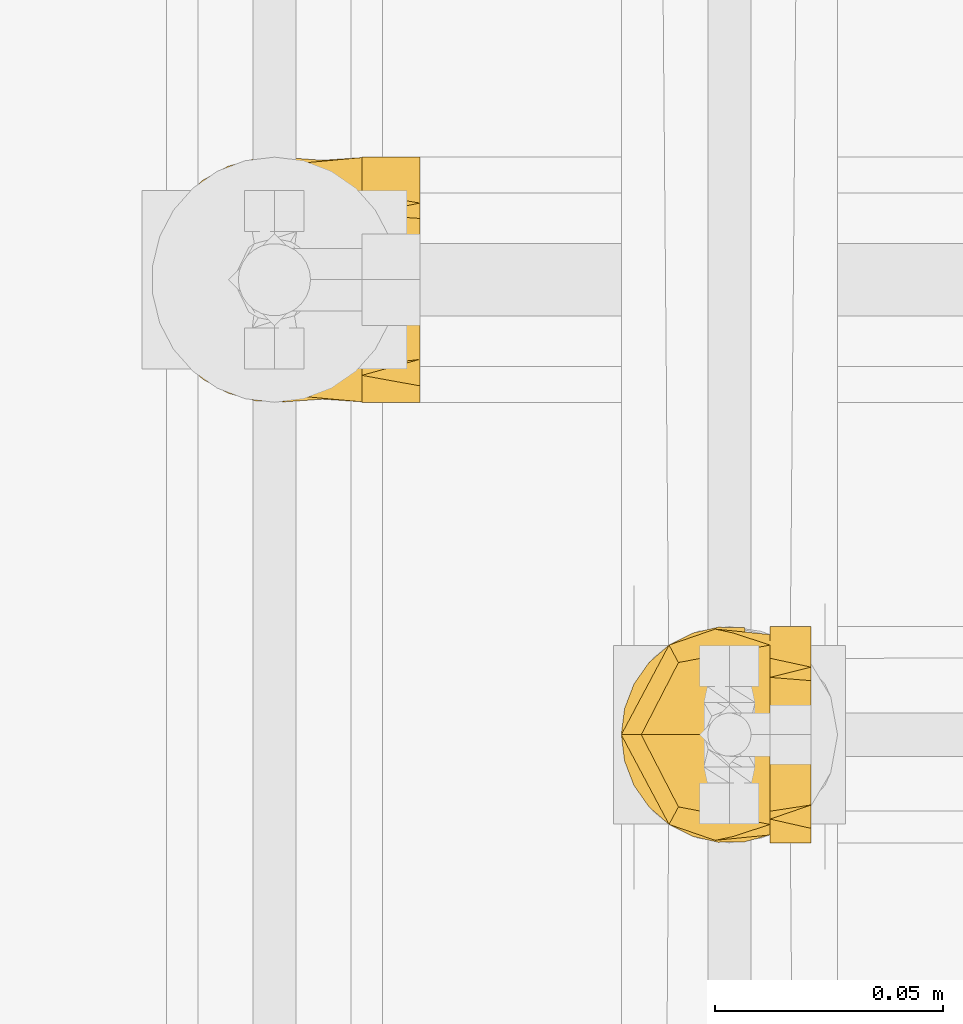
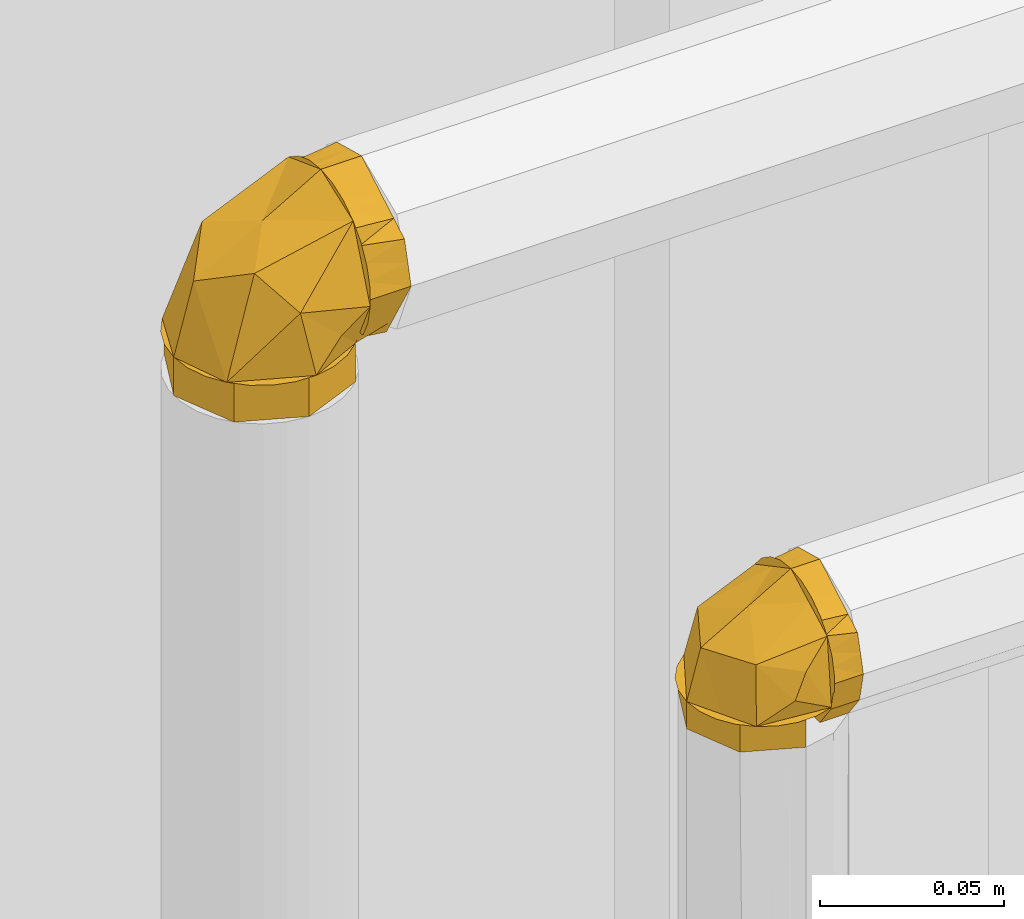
# One storey, part 306 of 652: 2 coverings.
"""IFC2X3 building model written with IfcOpenShell, lengths in millimetres."""

from ifc_helpers import new_model, entity, si_unit, converted_unit, direction, frame, origin, place, context, subcontext, project, spatial, face_set, surface_model, material, type_object, element, save


model = new_model("IFC2X3")

# Units and contexts
model_context = context("Model", 3, precision=0.01, world=frame((0.0, 0.0, 308426.39999999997)), true_north=direction((6.123233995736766e-17, 1.0)))
plan_context = context("Plan", 3, precision=0.01, world=frame((0.0, 0.0, 308426.39999999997)), true_north=direction((6.123233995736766e-17, 1.0)))
body_context = subcontext(model_context, "Body", "Model", "MODEL_VIEW")
ifc_project = project(units=[si_unit("LENGTHUNIT", "METRE", prefix="MILLI"), si_unit("AREAUNIT", "SQUARE_METRE"), si_unit("VOLUMEUNIT", "CUBIC_METRE"), converted_unit("PLANEANGLEUNIT", "DEGREE", entity("IfcPlaneAngleMeasure", 0.017453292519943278), si_unit("PLANEANGLEUNIT", "RADIAN"), dimensions=[0, 0, 0, 0, 0, 0, 0])], contexts=[model_context, plan_context])

# Site, building, storey
site_placement = place(None, origin())
site = spatial("IfcSite", under=ifc_project, at=site_placement, Name="Default", CompositionType="ELEMENT")
building_placement = place(site_placement, origin())
building = spatial("IfcBuilding", under=site, at=building_placement, CompositionType="ELEMENT")
storey_placement = place(building_placement, frame((0.0, 0.0, 1730.6999999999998)))
storey = spatial("IfcBuildingStorey", under=building, at=storey_placement, Name="EG_Produktion_FFB", CompositionType="ELEMENT", Elevation=1730.6999999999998)

# Coverings
ifc_material = material(Name="Dämmung - Armaflex-Schlauch")
covering_type = type_object("IfcCoveringType", Name="Rohrdämmung außen:Armaflex-Schlauch", PredefinedType="INSULATION")
covering_1_placement = place(storey_placement, frame((19434.71816691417, 55699.37306831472, 3368.0162500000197)))
element("IfcCovering", 1, at=covering_1_placement, inside=storey, type_object=covering_type, material=ifc_material, Name="Rohrdämmung außen:Armaflex-Schlauch", ObjectType="Rohrdämmung außen:Armaflex-Schlauch", PredefinedType="INSULATION", context=body_context, shape_type="SurfaceModel", body=[
    surface_model("IfcFaceBasedSurfaceModel", [(47.75027223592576, 9.65642195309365, 12.766250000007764), (42.79223424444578, 5.678961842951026, 12.76625000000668), (37.040242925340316, 2.973980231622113, 12.76625000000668), (30.81456370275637, 1.6920879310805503, 12.766250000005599), (24.46183649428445, 1.904659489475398, 12.766250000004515), (18.33577512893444, 3.599859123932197, 12.766250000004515), (12.777472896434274, 6.683299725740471, 12.766250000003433), (8.096410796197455, 10.983298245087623, 12.766250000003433), (4.553225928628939, 16.26043484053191, 12.76625000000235), (2.3451994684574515, 22.220883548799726, 12.76625000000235), (1.5952722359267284, 28.532772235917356, 12.76625000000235), (2.3451994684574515, 34.844660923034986, 12.76625000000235), (4.553225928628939, 40.8051096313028, 12.76625000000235), (8.096410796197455, 46.08224622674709, 12.766250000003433), (12.777472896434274, 50.38224474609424, 12.766250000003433), (18.33577512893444, 53.465685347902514, 12.766250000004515), (24.46183649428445, 55.16088498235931, 12.766250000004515), (30.81456370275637, 55.37345654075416, 12.766250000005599), (37.040242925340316, 54.0915642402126, 12.76625000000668), (42.79223424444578, 51.38658262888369, 12.76625000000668), (47.75027223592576, 47.409122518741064, 12.766250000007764), (47.75027223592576, 5.678961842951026, 17.72428799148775), (47.750272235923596, 2.973980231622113, 23.4762793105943), (47.750272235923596, 1.6920879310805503, 29.70195853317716), (47.750272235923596, 1.904659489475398, 36.05468574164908), (47.750272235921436, 3.599859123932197, 42.18074710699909), (47.750272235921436, 6.683299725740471, 47.73904933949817), (47.750272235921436, 10.983298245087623, 52.420111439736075), (47.750272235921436, 16.26043484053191, 55.96329630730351), (47.75027223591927, 22.220883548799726, 58.171322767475), (47.75027223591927, 28.532772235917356, 58.92125000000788), (47.75027223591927, 34.844660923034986, 58.171322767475), (47.750272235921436, 40.8051096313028, 55.96329630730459), (47.750272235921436, 46.08224622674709, 52.420111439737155), (47.750272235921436, 50.38224474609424, 47.73904933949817), (47.750272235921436, 53.465685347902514, 42.18074710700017), (47.750272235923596, 55.16088498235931, 36.05468574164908), (47.750272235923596, 55.37345654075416, 29.70195853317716), (47.750272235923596, 54.0915642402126, 23.4762793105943), (47.75027223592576, 51.38658262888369, 17.72428799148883), (39.06991902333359, 2.2781279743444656, 22.708934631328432), (7.778805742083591, 28.532339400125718, 35.84359802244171), (19.45599995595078, 6.3383452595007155, 12.766518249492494), (26.950891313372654, 3.5989775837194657, 33.56524871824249), (18.674652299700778, 14.286697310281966, 43.183847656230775), (29.486783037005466, 28.532339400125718, 48.3765539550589), (47.75078450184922, 6.3383452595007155, 41.06130279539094), (18.674652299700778, 42.77798148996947, 43.183847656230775), (26.950891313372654, 53.46570121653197, 33.56524871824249), (39.06991902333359, 54.79120170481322, 22.708934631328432), (47.75078450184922, 50.726333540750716, 41.06130279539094), (19.45599995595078, 50.726333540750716, 12.766518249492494), (7.512630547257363, 14.247005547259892, 0.0), (5.540177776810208, 19.008927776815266, 0.0), (3.5677250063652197, 23.770850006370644, 0.0), (1.5952722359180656, 28.532772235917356, 0.0), (3.5677250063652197, 33.29469446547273, 0.0), (5.540177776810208, 38.05661669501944, 0.0), (7.512630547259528, 42.81853892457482, 0.0), (9.485083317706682, 47.5804611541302, 0.0), (14.247005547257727, 49.552913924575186, 0.0), (19.008927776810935, 51.525366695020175, 0.0), (23.770850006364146, 53.497819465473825, 0.0), (28.532772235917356, 55.47027223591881, 0.0), (33.29469446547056, 53.49781946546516, 0.0), (38.05661669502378, 51.525366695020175, 0.0), (42.818538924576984, 49.552913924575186, 0.0), (47.5804611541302, 47.5804611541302, 0.0), (49.55291392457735, 42.81853892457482, 0.0), (51.5253666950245, 38.05661669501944, 0.0), (53.49781946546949, 33.29469446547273, 0.0), (55.47027223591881, 28.532772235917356, 0.0), (53.49781946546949, 23.77085000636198, 0.0), (51.5253666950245, 19.008927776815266, 0.0), (49.55291392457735, 14.247005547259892, 0.0), (47.5804611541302, 9.485083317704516, 0.0), (42.818538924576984, 7.512630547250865, 0.0), (38.05661669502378, 5.54017777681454, 0.0), (33.29469446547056, 3.567725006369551, 0.0), (28.532772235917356, 1.5952722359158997, 0.0), (23.770850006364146, 3.567725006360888, 0.0), (19.008927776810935, 5.54017777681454, 0.0), (14.24700554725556, 7.512630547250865, 0.0), (9.485083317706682, 9.485083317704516, 0.0), (1.5952722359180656, 28.532772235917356, 12.76625000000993), (3.5677250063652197, 23.77085000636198, 12.76625000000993), (5.5401777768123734, 19.008927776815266, 12.76625000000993), (7.512630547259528, 14.247005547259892, 12.766250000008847), (9.485083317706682, 9.485083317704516, 12.766250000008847), (15.253472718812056, 7.095738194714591, 12.766250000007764), (21.021862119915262, 4.706393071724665, 12.76625000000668), (28.53277223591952, 1.5952722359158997, 12.766250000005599), (33.29469446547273, 3.567725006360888, 12.766250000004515), (38.05661669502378, 5.54017777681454, 12.766250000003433), (42.818538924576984, 7.512630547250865, 12.76625000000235), (47.5804611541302, 9.485083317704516, 12.76625000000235), (49.96980627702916, 15.253472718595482, 12.76625000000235), (52.359151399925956, 21.021862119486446, 12.766250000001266), (55.47027223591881, 28.532772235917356, 12.766250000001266), (53.49781946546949, 33.29469446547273, 12.766250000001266), (51.5253666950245, 38.05661669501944, 12.766250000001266), (49.55291392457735, 42.81853892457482, 12.766250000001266), (47.5804611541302, 47.5804611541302, 12.76625000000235), (41.8120717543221, 49.96980627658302, 12.766250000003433), (36.043682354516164, 52.359151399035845, 12.766250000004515), (28.532772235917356, 55.47027223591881, 12.766250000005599), (23.770850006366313, 53.497819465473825, 12.76625000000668), (19.008927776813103, 51.525366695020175, 12.766250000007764), (14.247005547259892, 49.552913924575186, 12.766250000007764), (9.485083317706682, 47.5804611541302, 12.766250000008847), (7.095738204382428, 41.81207177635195, 12.76625000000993), (4.706393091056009, 36.0436823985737, 12.76625000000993), (60.516522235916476, 28.532772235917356, 58.92125000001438), (60.51652223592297, 22.700632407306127, 55.5540625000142), (60.5165222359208, 16.868492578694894, 52.1868750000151), (60.51652223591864, 11.036352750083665, 48.819687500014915), (60.516522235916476, 5.204212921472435, 45.45250000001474), (60.516522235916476, 3.3997425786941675, 38.718125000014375), (60.516522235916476, 1.5952722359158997, 31.98375000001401), (60.51652223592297, 4.962459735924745, 26.151610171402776), (60.5165222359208, 8.329647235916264, 20.31947034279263), (60.51652223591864, 11.696834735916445, 14.487330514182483), (60.516522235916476, 15.064022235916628, 8.655190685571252), (60.516522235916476, 21.79839723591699, 6.850720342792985), (60.516522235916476, 28.532772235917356, 5.046250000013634), (60.51652223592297, 34.36491206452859, 8.413437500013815), (60.5165222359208, 40.197051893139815, 11.780625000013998), (60.51652223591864, 46.02919172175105, 15.147812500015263), (60.516522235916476, 51.86133155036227, 18.51500000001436), (60.516522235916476, 53.66580189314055, 25.249375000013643), (60.516522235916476, 55.47027223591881, 31.98375000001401), (60.51652223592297, 52.10308473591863, 37.81588982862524), (60.5165222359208, 48.73589723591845, 43.648029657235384), (60.51652223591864, 45.36870973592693, 49.480169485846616), (60.516522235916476, 42.00152223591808, 55.31230931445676), (60.516522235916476, 35.26714723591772, 57.11677965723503), (47.750272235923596, 28.532772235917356, 58.92125000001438), (47.750272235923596, 33.29469446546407, 56.94879722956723), (47.750272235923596, 38.05661669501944, 54.97634445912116), (47.750272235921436, 42.81853892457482, 53.003891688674), (47.750272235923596, 47.5804611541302, 51.03143891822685), (47.750272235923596, 49.552913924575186, 46.26951668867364), (47.750272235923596, 51.525366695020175, 41.507594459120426), (47.750272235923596, 53.497819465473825, 36.74567222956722), (47.750272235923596, 55.47027223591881, 31.98375000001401), (47.750272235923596, 53.49781946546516, 27.2218277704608), (47.750272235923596, 51.525366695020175, 22.459905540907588), (47.750272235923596, 49.55291392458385, 17.697983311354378), (47.750272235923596, 47.5804611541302, 12.936061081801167), (47.750272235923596, 42.81853892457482, 10.963608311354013), (47.750272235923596, 38.05661669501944, 8.99115554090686), (47.750272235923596, 33.29469446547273, 7.018702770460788), (47.750272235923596, 28.532772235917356, 5.046250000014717), (47.750272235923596, 23.77085000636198, 7.018702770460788), (47.750272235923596, 19.008927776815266, 8.99115554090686), (47.750272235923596, 14.247005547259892, 10.963608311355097), (47.750272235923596, 9.485083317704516, 12.936061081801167), (47.750272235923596, 7.512630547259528, 17.697983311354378), (47.750272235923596, 5.54017777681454, 22.459905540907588), (47.750272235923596, 3.567725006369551, 27.2218277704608), (47.750272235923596, 1.5952722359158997, 31.98375000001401), (47.750272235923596, 3.567725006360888, 36.74567222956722), (47.750272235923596, 5.54017777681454, 41.507594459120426), (47.750272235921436, 7.512630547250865, 46.26951668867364), (47.750272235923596, 9.485083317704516, 51.03143891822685), (47.750272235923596, 14.247005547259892, 53.003891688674), (47.750272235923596, 19.008927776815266, 54.97634445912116), (47.750272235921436, 23.770850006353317, 56.94879722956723)], [face_set([[[0, 1, 2, 3, 4, 5, 6, 7, 8, 9, 10, 11, 12, 13, 14, 15, 16, 17, 18, 19]], [[20, 21, 22, 23, 24, 25, 26, 27, 28, 29, 30, 31, 32, 33, 34, 35, 36, 37, 38, 39]], [[0, 40, 3]], [[10, 7, 41]], [[42, 3, 43]], [[40, 43, 3]], [[23, 40, 0]], [[7, 43, 44]], [[45, 41, 44]], [[7, 44, 41]], [[27, 30, 45]], [[45, 44, 27]], [[43, 27, 44]], [[43, 23, 46]], [[43, 7, 42]], [[23, 43, 40]], [[46, 27, 43]], [[13, 10, 41]], [[33, 47, 45]], [[45, 30, 33]], [[48, 47, 33]], [[49, 48, 37]], [[48, 50, 37]], [[45, 47, 41]], [[20, 49, 37]], [[47, 48, 13]], [[17, 49, 20]], [[41, 47, 13]], [[48, 17, 51]], [[48, 33, 50]], [[17, 48, 49]], [[51, 13, 48]]]), face_set([[[52, 53, 54, 55, 56, 57, 58, 59, 60, 61, 62, 63, 64, 65, 66, 67, 68, 69, 70, 71, 72, 73, 74, 75, 76, 77, 78, 79, 80, 81, 82, 83]], [[84, 85, 86, 87, 88, 89, 90, 91, 92, 93, 94, 95, 96, 97, 98, 99, 100, 101, 102, 103, 104, 105, 106, 107, 108, 109, 110, 111]], [[111, 110, 109, 59, 58, 57, 56, 55, 84]], [[59, 109, 108, 107, 106, 105, 63, 62, 61, 60]], [[104, 103, 102, 67, 66, 65, 64, 63, 105]], [[67, 102, 101, 100, 99, 98, 71, 70, 69, 68]], [[97, 96, 95, 75, 74, 73, 72, 71, 98]], [[75, 95, 94, 93, 92, 91, 79, 78, 77, 76]], [[90, 89, 88, 83, 82, 81, 80, 79, 91]], [[83, 88, 87, 86, 85, 84, 55, 54, 53, 52]]]), face_set([[[112, 113, 114, 115, 116, 117, 118, 119, 120, 121, 122, 123, 124, 125, 126, 127, 128, 129, 130, 131, 132, 133, 134, 135]], [[136, 137, 138, 139, 140, 141, 142, 143, 144, 145, 146, 147, 148, 149, 150, 151, 152, 153, 154, 155, 156, 157, 158, 159, 160, 161, 162, 163, 164, 165, 166, 167]], [[155, 121, 156]], [[118, 159, 119]], [[159, 158, 119]], [[123, 154, 153]], [[153, 152, 124]], [[121, 155, 122]], [[120, 158, 157]], [[118, 160, 159]], [[158, 120, 119]], [[124, 123, 153]], [[157, 156, 121]], [[155, 154, 122]], [[123, 122, 154]], [[120, 157, 121]], [[163, 115, 164]], [[112, 167, 113]], [[167, 166, 113]], [[117, 162, 161]], [[161, 160, 118]], [[115, 163, 116]], [[114, 166, 165]], [[112, 136, 167]], [[166, 114, 113]], [[118, 117, 161]], [[165, 164, 115]], [[163, 162, 116]], [[117, 116, 162]], [[114, 165, 115]], [[139, 133, 140]], [[130, 143, 131]], [[143, 142, 131]], [[135, 138, 137]], [[137, 136, 112]], [[133, 139, 134]], [[132, 142, 141]], [[130, 144, 143]], [[142, 132, 131]], [[112, 135, 137]], [[141, 140, 133]], [[139, 138, 134]], [[135, 134, 138]], [[132, 141, 133]], [[147, 127, 148]], [[124, 151, 125]], [[151, 150, 125]], [[129, 146, 145]], [[145, 144, 130]], [[127, 147, 128]], [[126, 150, 149]], [[124, 152, 151]], [[150, 126, 125]], [[130, 129, 145]], [[149, 148, 127]], [[147, 146, 128]], [[129, 128, 146]], [[126, 149, 127]]])]),
])
covering_2_placement = place(storey_placement, frame((19537.89316691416, 55602.548068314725, 3280.6110791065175)))
element("IfcCovering", 2, at=covering_2_placement, inside=storey, type_object=covering_type, material=ifc_material, Name="Rohrdämmung außen:Armaflex-Schlauch", ObjectType="Rohrdämmung außen:Armaflex-Schlauch", PredefinedType="INSULATION", context=body_context, shape_type="SurfaceModel", body=[
    surface_model("IfcFaceBasedSurfaceModel", [(34.288272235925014, 3.3372686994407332, 10.458420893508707), (28.691896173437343, 1.8303409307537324, 10.458420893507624), (22.897179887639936, 1.7230119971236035, 10.458420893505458), (17.24883921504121, 3.0216666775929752, 10.458420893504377), (12.082882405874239, 5.649050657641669, 10.458420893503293), (7.706621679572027, 9.44886623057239, 10.45842089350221), (4.380391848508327, 14.195070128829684, 10.458420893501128), (2.302063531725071, 19.605320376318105, 10.458420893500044), (1.5952722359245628, 25.357772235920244, 10.458420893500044), (2.302063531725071, 31.110224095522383, 10.458420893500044), (4.380391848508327, 36.520474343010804, 10.458420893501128), (7.706621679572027, 41.266678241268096, 10.45842089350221), (12.082882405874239, 45.066493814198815, 10.458420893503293), (17.24883921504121, 47.69387779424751, 10.458420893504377), (22.897179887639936, 48.99253247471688, 10.458420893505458), (28.691896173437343, 48.88520354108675, 10.458420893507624), (34.288272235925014, 47.37827577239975, 10.458420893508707), (34.288272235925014, 1.8303409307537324, 16.054796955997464), (34.28827223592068, 1.7230119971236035, 21.84951324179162), (34.28827223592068, 3.0216666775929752, 27.497853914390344), (34.28827223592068, 5.649050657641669, 32.66381072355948), (34.28827223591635, 9.44886623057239, 37.04007144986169), (34.28827223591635, 14.195070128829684, 40.36630128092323), (34.28827223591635, 19.605320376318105, 42.444629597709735), (34.28827223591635, 25.357772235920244, 43.15142089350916), (34.28827223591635, 31.110224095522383, 42.444629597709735), (34.28827223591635, 36.520474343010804, 40.36630128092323), (34.28827223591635, 41.266678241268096, 37.04007144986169), (34.28827223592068, 45.066493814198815, 32.663810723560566), (34.28827223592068, 47.69387779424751, 27.497853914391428), (34.28827223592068, 48.99253247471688, 21.84951324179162), (34.288272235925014, 48.88520354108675, 16.054796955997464), (26.166153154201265, 2.997366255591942, 25.36520873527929), (14.15060749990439, 9.499294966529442, 27.879590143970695), (34.28891316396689, 4.480996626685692, 21.432309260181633), (6.778964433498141, 15.619851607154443, 10.458560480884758), (5.97436238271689, 25.358792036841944, 26.804655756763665), (34.28891316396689, 15.503579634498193, 37.907466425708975), (21.219943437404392, 25.358792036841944, 35.60644408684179), (22.222207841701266, 2.141604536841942, 17.538360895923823), (23.184939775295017, 4.494949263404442, 10.458560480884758), (26.166153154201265, 47.71556693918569, 25.36520873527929), (22.222207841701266, 48.57597953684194, 17.538360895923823), (14.15060749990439, 41.21828910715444, 27.879590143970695), (6.778964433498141, 35.09773246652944, 10.458560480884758), (34.28891316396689, 46.23658744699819, 21.432309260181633), (34.28891316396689, 35.09773246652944, 37.968509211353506), (20.13163777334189, 25.358792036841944, 34.97799407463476), (23.184939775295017, 46.222634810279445, 10.458560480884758), (25.356900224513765, 1.5974517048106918, 1.4387622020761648), (25.356900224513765, 1.5974517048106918, 10.458560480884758), (8.55560017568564, 8.555166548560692, 10.458560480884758), (8.55560017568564, 8.555166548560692, 1.4387622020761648), (1.5955598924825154, 25.358792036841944, 10.458560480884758), (1.5955598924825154, 25.358792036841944, 1.4387622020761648), (8.55560017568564, 42.162417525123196, 10.458560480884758), (8.55560017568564, 42.162417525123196, 1.4387622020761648), (25.356900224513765, 49.12013236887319, 10.458560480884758), (25.356900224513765, 49.12013236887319, 1.4387622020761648), (43.30802223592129, 46.14995973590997, 24.533653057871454), (43.308022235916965, 43.179647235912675, 29.678385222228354), (43.308022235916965, 40.20933473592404, 34.823117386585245), (43.30802223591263, 37.239022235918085, 39.96784955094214), (43.30802223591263, 31.298397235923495, 41.55963522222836), (43.30802223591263, 25.357772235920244, 43.151420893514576), (43.30802223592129, 20.21304007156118, 40.18110839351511), (43.308022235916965, 15.068307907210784, 37.21079589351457), (43.30802223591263, 9.923575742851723, 34.240483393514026), (43.30802223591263, 4.778843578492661, 31.270170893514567), (43.30802223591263, 3.1870579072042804, 25.329545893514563), (43.30802223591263, 1.5952722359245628, 19.38892089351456), (43.308022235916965, 2.643120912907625, 14.510241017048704), (43.30802223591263, 3.690969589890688, 9.631561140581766), (43.30802223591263, 6.649688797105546, 5.613416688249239), (43.30802223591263, 9.608408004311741, 1.595272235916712), (43.30802223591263, 41.10713646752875, 1.595272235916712), (43.308022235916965, 44.06585567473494, 5.613416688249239), (43.30802223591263, 47.024574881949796, 9.631561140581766), (43.30802223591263, 48.07242355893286, 14.510241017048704), (43.30802223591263, 49.12027223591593, 19.38892089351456), (34.288272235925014, 42.160397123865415, 36.19154578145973), (34.288272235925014, 43.90036590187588, 31.99088955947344), (34.288272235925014, 45.64033467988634, 27.790233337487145), (34.28827223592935, 47.38030345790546, 23.589577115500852), (34.288272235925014, 49.12027223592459, 19.38892089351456), (34.288272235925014, 48.07242355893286, 14.510241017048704), (34.288272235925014, 47.024574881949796, 9.631561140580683), (34.288272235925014, 43.985875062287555, 5.504797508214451), (34.288272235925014, 41.10713646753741, 1.595272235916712), (34.288272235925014, 9.608408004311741, 1.595272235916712), (34.288272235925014, 6.649688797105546, 5.613416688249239), (34.288272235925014, 3.6909695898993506, 9.631561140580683), (34.288272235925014, 2.6147952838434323, 14.64212234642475), (34.288272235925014, 1.5952722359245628, 19.38892089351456), (34.288272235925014, 3.335241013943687, 23.589577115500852), (34.288272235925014, 5.075209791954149, 27.790233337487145), (34.288272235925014, 6.815178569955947, 31.99088955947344), (34.288272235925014, 8.55514734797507, 36.19154578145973), (34.288272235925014, 12.755803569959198, 37.93151455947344), (34.288272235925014, 16.956459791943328, 39.67148333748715), (34.288272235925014, 21.157116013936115, 41.411452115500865), (34.288272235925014, 25.357772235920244, 43.151420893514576), (34.288272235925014, 29.558428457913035, 41.411452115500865), (34.288272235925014, 33.759084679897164, 39.67148333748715), (34.288272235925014, 37.95974090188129, 37.93151455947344)], [face_set([[[0, 1, 2, 3, 4, 5, 6, 7, 8, 9, 10, 11, 12, 13, 14, 15]], [[16, 17, 18, 19, 20, 21, 22, 23, 24, 25, 26, 27, 28, 29, 30, 31]], [[32, 20, 33]], [[32, 34, 20]], [[33, 35, 4]], [[35, 33, 36]], [[36, 8, 35]], [[33, 37, 38]], [[39, 4, 40]], [[32, 33, 39]], [[34, 32, 0]], [[4, 39, 33]], [[38, 36, 33]], [[0, 32, 39]], [[33, 20, 37]], [[37, 24, 38]], [[0, 39, 40]], [[41, 16, 42]], [[43, 44, 36]], [[28, 45, 41]], [[46, 43, 47]], [[44, 8, 36]], [[12, 43, 42]], [[44, 43, 12]], [[42, 16, 48]], [[28, 43, 46]], [[16, 41, 45]], [[43, 41, 42]], [[43, 36, 47]], [[47, 24, 46]], [[28, 41, 43]], [[48, 12, 42]]]), face_set([[[49, 50, 51, 52]], [[53, 54, 52, 51]], [[54, 53, 55, 56]], [[57, 58, 56, 55]]]), face_set([[[59, 60, 61, 62, 63, 64, 65, 66, 67, 68, 69, 70, 71, 72, 73, 74, 75, 76, 77, 78, 79]], [[80, 81, 82, 83, 84, 85, 86, 87, 88, 89, 90, 91, 92, 93, 94, 95, 96, 97, 98, 99, 100, 101, 102, 103, 104]], [[75, 74, 89, 88]], [[71, 70, 93, 92, 91, 72]], [[73, 72, 91, 90, 89, 74]], [[96, 67, 97]], [[64, 100, 65]], [[100, 99, 65]], [[69, 95, 94]], [[94, 93, 70]], [[67, 96, 68]], [[66, 99, 98]], [[64, 101, 100]], [[99, 66, 65]], [[70, 69, 94]], [[98, 97, 67]], [[96, 95, 68]], [[69, 68, 95]], [[66, 98, 67]], [[104, 61, 80]], [[79, 83, 59]], [[83, 82, 59]], [[63, 103, 102]], [[102, 101, 64]], [[61, 104, 62]], [[60, 82, 81]], [[79, 84, 83]], [[82, 60, 59]], [[64, 63, 102]], [[81, 80, 61]], [[104, 103, 62]], [[63, 62, 103]], [[60, 81, 61]], [[76, 75, 88, 87, 86, 77]], [[78, 77, 86, 85, 84, 79]]])]),
])

save(model, "model.ifc")
